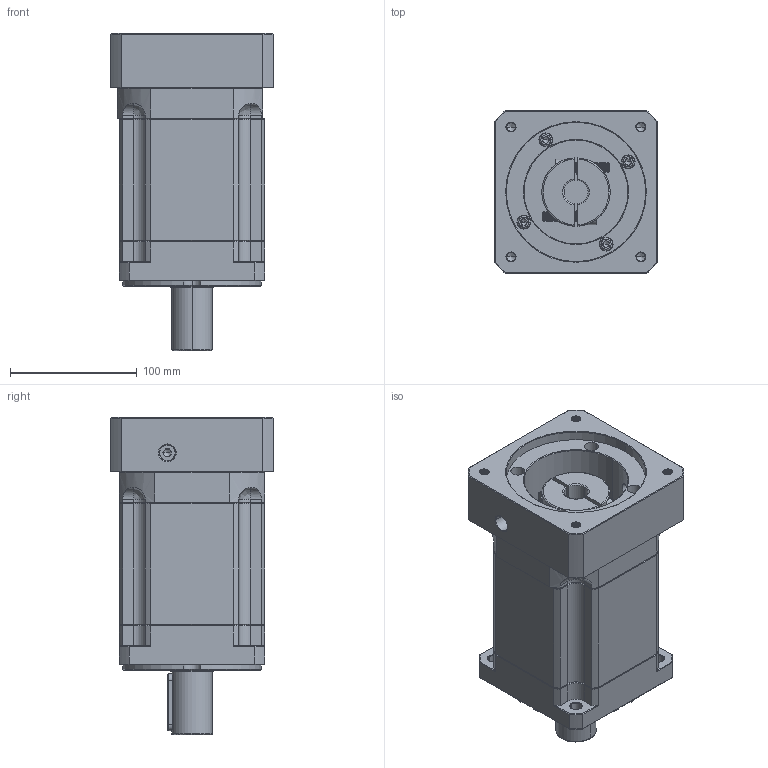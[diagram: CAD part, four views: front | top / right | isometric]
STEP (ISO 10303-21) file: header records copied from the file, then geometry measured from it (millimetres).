
FILE_DESCRIPTION (( 'STEP AP214' ), '1' );
FILE_NAME ('ZB115A-D32-L3-19-110-145-M8.step', '2023-03-02T09:01:52', ( '' ), ( 'Microsoft' ), 'SwSTEP 2.0', 'SolidWorks 2016', '' );
FILE_SCHEMA (( 'AUTOMOTIVE_DESIGN' ));
Length unit declared in the file: millimetre
Products named in the file (1): ZB115A-D32-L3-19-110-145-M8
Bounding box: 128 x 128 x 250.5 mm (x, y, z)
Volume: 2288699.9 mm3; surface area: 203316.7 mm2
Topology: 6 solids, 6 shells, 2114 faces, 5464 edges, 3444 vertices
Faces by surface type: plane 963, cylinder 439, cone 367, bspline 325, torus 20
Entity records: 113406 total; most frequent: CARTESIAN_POINT 41500, ORIENTED_EDGE 10860, DIRECTION 8906, EDGE_CURVE 5430, VERTEX_POINT 3444, LINE 3372, VECTOR 3372, AXIS2_PLACEMENT_3D 2767
